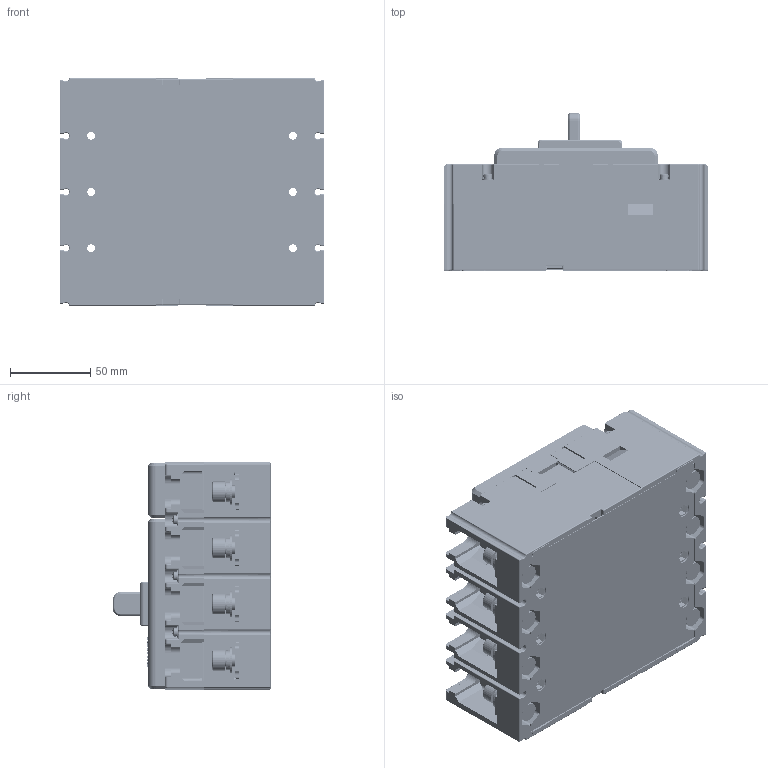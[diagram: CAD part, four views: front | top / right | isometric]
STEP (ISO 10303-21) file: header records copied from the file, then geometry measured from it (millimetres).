
FILE_DESCRIPTION((''),'2;1');
FILE_NAME('CDM6I-250L_4P_160A__ASM','2025-11-04T',('Administrator'),(''),'PRO/ENGINEER BY PARAMETRIC TECHNOLOGY CORPORATION, 2015440','PRO/ENGINEER BY PARAMETRIC TECHNOLOGY CORPORATION, 2015440','');
FILE_SCHEMA(('CONFIG_CONTROL_DESIGN'));
Products named in the file (40): JZ-5024044400_3_1_1; GB_T809-M3X12_8_1_1; 5024044400_ASM_2_ASM_1_ASM_1_ASM; 8940007200_8_1_1; 5295008100_ASM_5_ASM_1_ASM_1_ASM; 8751002200_5_1_1; 8750030100_5_1_1; 8253076600_8_1_1; 5253029200_ASM_9_ASM_1_ASM_1_ASM; GB_T809-M3X8_8_1_1; 5315050100_ASM_4_ASM_1_ASM_1_ASM; 8282018100_AF1_8_1_1; 8253077300_8_1_1; 5315051300_ASM_4_ASM_1_ASM_1_ASM; 8315095900_8_1_1; 8315096000_5_1_1; 7010100305R01_GB_T823_M3X10_8_1; 7090300201_GB_T93_3_8_1_1; GB_T97_4_3_8_1_1; 5850007700_ASM_8_ASM_1_ASM_1_ASM; 5315051500_ASM_5_ASM_1_ASM_1_ASM; GB_T70_1-M8X20_8_1_1; 7090200704_GB_T97_1_8_8_1_1; 7090370701K_GB_T93_8_8_1_1; 5850004100_AF40_ASM_9_ASM_1_ASM_ASM; 5850004100_AF41_ASM_9_ASM_1_ASM_ASM; 5850004100_AF42_ASM_9_ASM_1_ASM_ASM; 5850004100_AF43_ASM_9_ASM_1_ASM_ASM; 5850004100_AF44_ASM_9_ASM_1_ASM_ASM; 5850004100_AF45_ASM_9_ASM_1_ASM_ASM; 5850004100_AF46_ASM_9_ASM_1_ASM_ASM; 5850004100_AF47_ASM_9_ASM_1_ASM_ASM; 8742102800_5_1_1; 7030100225_GB_T9074_4-M3X30_8_1; ZG-5315076400_1; GB_T809-M3X8_1; 5315076400_ASM_1_ASM; 2253030100_ASM_4_ASM_1_ASM_1_ASM; 8551033400; CDM6I-250L_4P_160A__ASM
Assembly tree (113 placements, depth 6):
  CDM6I-250L_4P_160A__ASM
    2253030100_ASM_4_ASM_1_ASM_1_ASM
      5295008100_ASM_5_ASM_1_ASM_1_ASM
        5024044400_ASM_2_ASM_1_ASM_1_ASM
          JZ-5024044400_3_1_1
          GB_T809-M3X12_8_1_1  x10
        8940007200_8_1_1  x8
      8751002200_5_1_1  x4
      8750030100_5_1_1  x4
      5253029200_ASM_9_ASM_1_ASM_1_ASM
        8253076600_8_1_1
      5315051500_ASM_5_ASM_1_ASM_1_ASM
        5315051300_ASM_4_ASM_1_ASM_1_ASM
          5315050100_ASM_4_ASM_1_ASM_1_ASM
            GB_T809-M3X8_8_1_1  x6
          8282018100_AF1_8_1_1
          8253077300_8_1_1
        8315095900_8_1_1
        8315096000_5_1_1
        5850007700_ASM_8_ASM_1_ASM_1_ASM  x6
          7010100305R01_GB_T823_M3X10_8_1
          7090300201_GB_T93_3_8_1_1
          GB_T97_4_3_8_1_1
      5850004100_AF40_ASM_9_ASM_1_ASM_ASM
        GB_T70_1-M8X20_8_1_1
        7090200704_GB_T97_1_8_8_1_1
        7090370701K_GB_T93_8_8_1_1
      5850004100_AF41_ASM_9_ASM_1_ASM_ASM
        GB_T70_1-M8X20_8_1_1
        7090200704_GB_T97_1_8_8_1_1
        7090370701K_GB_T93_8_8_1_1
      5850004100_AF42_ASM_9_ASM_1_ASM_ASM
        GB_T70_1-M8X20_8_1_1
        7090200704_GB_T97_1_8_8_1_1
        7090370701K_GB_T93_8_8_1_1
      5850004100_AF44_ASM_9_ASM_1_ASM_ASM
        GB_T70_1-M8X20_8_1_1
        7090200704_GB_T97_1_8_8_1_1
        7090370701K_GB_T93_8_8_1_1
        5850004100_AF43_ASM_9_ASM_1_ASM_ASM
          GB_T70_1-M8X20_8_1_1
          7090200704_GB_T97_1_8_8_1_1
          7090370701K_GB_T93_8_8_1_1
      5850004100_AF45_ASM_9_ASM_1_ASM_ASM
        GB_T70_1-M8X20_8_1_1
        7090200704_GB_T97_1_8_8_1_1
        7090370701K_GB_T93_8_8_1_1
      5850004100_AF46_ASM_9_ASM_1_ASM_ASM
        GB_T70_1-M8X20_8_1_1
        7090200704_GB_T97_1_8_8_1_1
        7090370701K_GB_T93_8_8_1_1
      5850004100_AF47_ASM_9_ASM_1_ASM_ASM
        GB_T70_1-M8X20_8_1_1
        7090200704_GB_T97_1_8_8_1_1
        7090370701K_GB_T93_8_8_1_1
      8742102800_5_1_1
      7030100225_GB_T9074_4-M3X30_8_1  x10
      5315076400_ASM_1_ASM
        ZG-5315076400_1
        GB_T809-M3X8_1  x6
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Bounding box: 165 x 99 x 142 mm (x, y, z)
Volume: 1174609.2 mm3; surface area: 382704.2 mm2
Topology: 106 solids, 128 shells, 8393 faces, 22174 edges, 13997 vertices
Faces by surface type: plane 4164, cylinder 2857, torus 532, cone 343, sphere 250, bspline 126, extrusion 121
Entity records: 200136 total; most frequent: CARTESIAN_POINT 49085, DIRECTION 31654, ORIENTED_EDGE 31506, EDGE_CURVE 15759, AXIS2_PLACEMENT_3D 10782, VECTOR 10090, VERTEX_POINT 10021, LINE 9969
